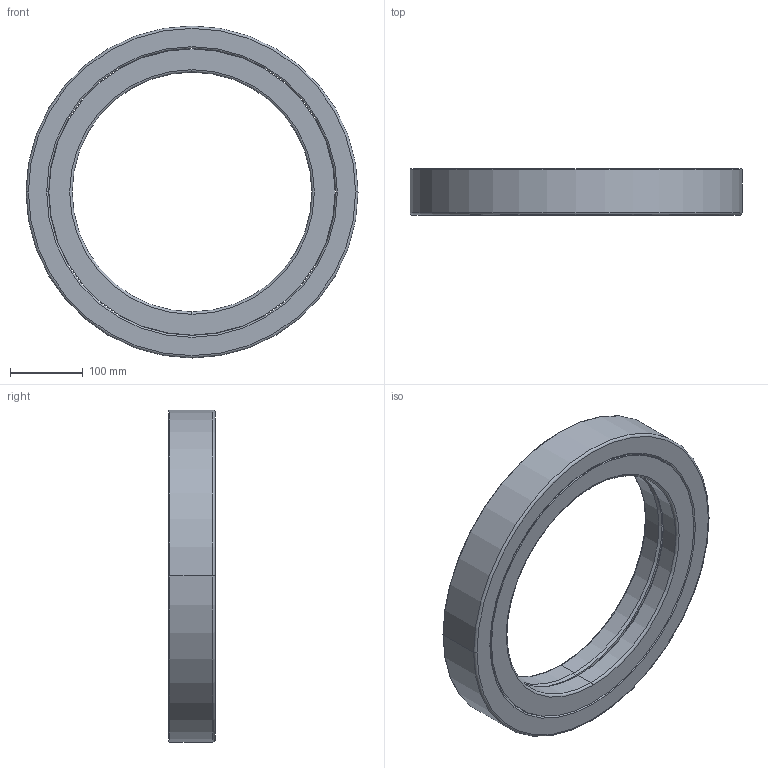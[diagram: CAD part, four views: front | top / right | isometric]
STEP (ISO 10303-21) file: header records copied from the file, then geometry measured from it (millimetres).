
FILE_DESCRIPTION((''),'2;1');
FILE_NAME('XR678052','2017-01-12T',('Administrator'),(''),'PRO/ENGINEER BY PARAMETRIC TECHNOLOGY CORPORATION, 2010180','PRO/ENGINEER BY PARAMETRIC TECHNOLOGY CORPORATION, 2010180','');
FILE_SCHEMA(('AUTOMOTIVE_DESIGN_CC2 { 1 2 10303 214 -1 1 5 2 }'));
Length unit declared in the file: millimetre
Products named in the file (1): XR678052
Bounding box: 457.2 x 63.5 x 457.2 mm (x, y, z)
Volume: 4103916 mm3; surface area: 530220.9 mm2
Topology: 3 solids, 6 shells, 69 faces, 1110 edges, 1052 vertices
Faces by surface type: cylinder 26, cone 18, torus 14, plane 11
Entity records: 11006 total; most frequent: DIRECTION 1363, CARTESIAN_POINT 1357, VECTOR 985, LINE 985, PRESENTATION_STYLE_ASSIGNMENT 983, STYLED_ITEM 983, CURVE_STYLE 943, TRIMMED_CURVE 942
